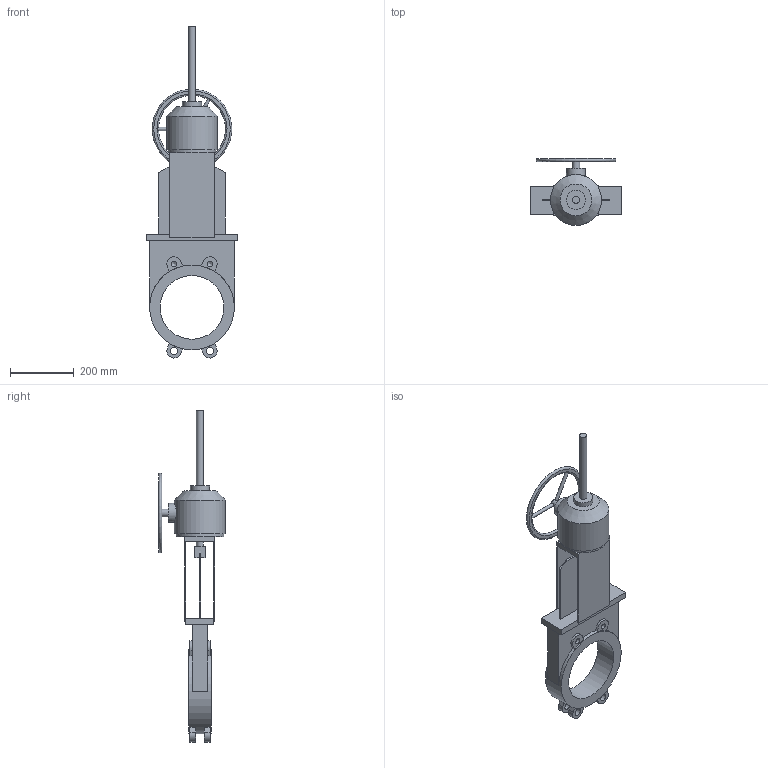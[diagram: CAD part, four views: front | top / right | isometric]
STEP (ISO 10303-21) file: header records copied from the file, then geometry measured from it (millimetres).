
FILE_DESCRIPTION(('STEP AP203'), '1');
FILE_NAME('Çàäâèæêà øèáåðíàÿ K21GV DN200 ðåäóêòîð+âûäâèæíîé øïèíäåëü', '', ('UNSPECIFIED'), ('UNSPECIFIED'), 'ASCON STEP Converter 1.6', 'ASCON Math Kernel', '');
FILE_SCHEMA(('CONFIG_CONTROL_DESIGN'));
Length unit declared in the file: millimetre
Bounding box: 286 x 210 x 1041.75 mm (x, y, z)
Volume: 7382129.8 mm3; surface area: 698015.9 mm2
Topology: 1 solids, 1 shells, 117 faces, 301 edges, 191 vertices
Faces by surface type: plane 80, cylinder 28, cone 5, torus 4
Full cylindrical faces by diameter (mm): 10 x3, 17.294 x4, 22 x2, 23 x4, 24 x1, 60 x2, 150 x1, 160 x1, 200 x1, 266 x1
Entity records: 5625 total; most frequent: CARTESIAN_POINT 1854, DIRECTION 582, ORIENTED_EDGE 540, EDGE_CURVE 270, AXIS2_PLACEMENT_3D 207, VERTEX_POINT 187, EDGE_LOOP 169, LINE 168
